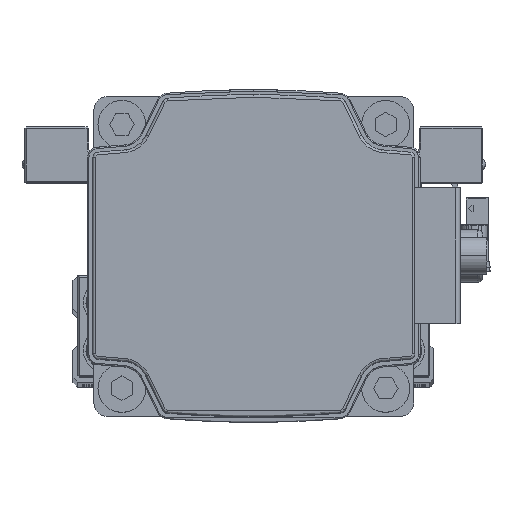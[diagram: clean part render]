
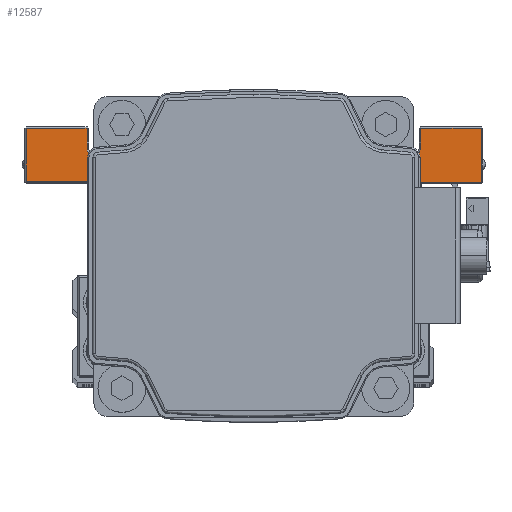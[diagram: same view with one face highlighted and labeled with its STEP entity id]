
A CAD part, top view. The second image highlights one B-rep face of the part: STEP entity #12587.
In plain terms, the highlighted planar face has unit normal (0, 0, 1) as drawn and (1, 0, 0) by its records, which use the part's own axes.
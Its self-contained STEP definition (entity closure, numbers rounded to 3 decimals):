
#397 = DIRECTION ( 'NONE',  ( 0., -1., 0. ) ) ;
#512 = CARTESIAN_POINT ( 'NONE',  ( 45., 7.5, 31.3 ) ) ;
#765 = CARTESIAN_POINT ( 'NONE',  ( 45., 7.5, 42.7 ) ) ;
#842 = EDGE_CURVE ( 'NONE', #40557, #41171, #16309, .T. ) ;
#1237 = ORIENTED_EDGE ( 'NONE', *, *, #10151, .T. ) ;
#1590 = CARTESIAN_POINT ( 'NONE',  ( 45., 12.7, -30. ) ) ;
#1626 = CARTESIAN_POINT ( 'NONE',  ( 45., 14., -30. ) ) ;
#1778 = AXIS2_PLACEMENT_3D ( 'NONE', #1626, #14402, #27135 ) ;
#1804 = LINE ( 'NONE', #14599, #9220 ) ;
#2084 = DIRECTION ( 'NONE',  ( -1., 0., 0. ) ) ;
#2250 = ORIENTED_EDGE ( 'NONE', *, *, #29465, .T. ) ;
#2454 = EDGE_CURVE ( 'NONE', #15467, #35933, #19792, .T. ) ;
#2569 = VECTOR ( 'NONE', #30602, 1000. ) ;
#3351 = VECTOR ( 'NONE', #13535, 1000. ) ;
#3794 = VERTEX_POINT ( 'NONE', #37383 ) ;
#4697 = CARTESIAN_POINT ( 'NONE',  ( 45., -8.2, 19.7 ) ) ;
#4905 = CARTESIAN_POINT ( 'NONE',  ( 45., 17.7, 31.3 ) ) ;
#5095 = LINE ( 'NONE', #17846, #2569 ) ;
#5220 = FACE_OUTER_BOUND ( 'NONE', #22428, .T. ) ;
#5696 = VERTEX_POINT ( 'NONE', #15665 ) ;
#6164 = LINE ( 'NONE', #18903, #13261 ) ;
#6236 = DIRECTION ( 'NONE',  ( 0., 1., 0. ) ) ;
#6340 = DIRECTION ( 'NONE',  ( 0., 0., -1. ) ) ;
#8253 = CARTESIAN_POINT ( 'NONE',  ( 45., 14., 30. ) ) ;
#8393 = VECTOR ( 'NONE', #6236, 1000. ) ;
#8424 = EDGE_CURVE ( 'NONE', #10308, #16803, #15781, .T. ) ;
#9220 = VECTOR ( 'NONE', #27339, 1000. ) ;
#9478 = LINE ( 'NONE', #22213, #25627 ) ;
#9861 = LINE ( 'NONE', #22603, #20858 ) ;
#10151 = EDGE_CURVE ( 'NONE', #5696, #15467, #9478, .T. ) ;
#10308 = VERTEX_POINT ( 'NONE', #16953 ) ;
#10400 = ORIENTED_EDGE ( 'NONE', *, *, #14552, .T. ) ;
#10571 = AXIS2_PLACEMENT_3D ( 'NONE', #30722, #2084, #14857 ) ;
#11680 = VERTEX_POINT ( 'NONE', #4905 ) ;
#12488 = LINE ( 'NONE', #25240, #25377 ) ;
#12587 = ADVANCED_FACE ( 'NONE', ( #5220 ), #17968, .F. ) ;
#13022 = EDGE_CURVE ( 'NONE', #18939, #5696, #1804, .T. ) ;
#13261 = VECTOR ( 'NONE', #31649, 1000. ) ;
#13295 = DIRECTION ( 'NONE',  ( 0., 1., 0. ) ) ;
#13535 = DIRECTION ( 'NONE',  ( 0., -1., 0. ) ) ;
#14402 = DIRECTION ( 'NONE',  ( -1., 0., 0. ) ) ;
#14552 = EDGE_CURVE ( 'NONE', #41171, #16241, #12488, .T. ) ;
#14599 = CARTESIAN_POINT ( 'NONE',  ( 45., 17.7, -20. ) ) ;
#14857 = DIRECTION ( 'NONE',  ( 0., 0., 1. ) ) ;
#15467 = VERTEX_POINT ( 'NONE', #34489 ) ;
#15665 = CARTESIAN_POINT ( 'NONE',  ( 45., 17.7, -31.3 ) ) ;
#15781 = LINE ( 'NONE', #28529, #36044 ) ;
#16241 = VERTEX_POINT ( 'NONE', #35145 ) ;
#16309 = LINE ( 'NONE', #29058, #38209 ) ;
#16482 = CARTESIAN_POINT ( 'NONE',  ( 45., 14., 31.3 ) ) ;
#16695 = CARTESIAN_POINT ( 'NONE',  ( 45., 7.5, -42.7 ) ) ;
#16711 = ORIENTED_EDGE ( 'NONE', *, *, #13022, .T. ) ;
#16759 = VERTEX_POINT ( 'NONE', #16482 ) ;
#16803 = VERTEX_POINT ( 'NONE', #16695 ) ;
#16953 = CARTESIAN_POINT ( 'NONE',  ( 45., 7.5, -19.7 ) ) ;
#17846 = CARTESIAN_POINT ( 'NONE',  ( 45., 17.7, -20. ) ) ;
#17968 = PLANE ( 'NONE',  #10571 ) ;
#18577 = VERTEX_POINT ( 'NONE', #27073 ) ;
#18903 = CARTESIAN_POINT ( 'NONE',  ( 45., 7.5, -19.7 ) ) ;
#18939 = VERTEX_POINT ( 'NONE', #27023 ) ;
#19792 = CIRCLE ( 'NONE', #1778, 1.3 ) ;
#19968 = EDGE_CURVE ( 'NONE', #16241, #10308, #6164, .T. ) ;
#20536 = EDGE_CURVE ( 'NONE', #35933, #3794, #9861, .T. ) ;
#20858 = VECTOR ( 'NONE', #35358, 1000. ) ;
#20931 = ORIENTED_EDGE ( 'NONE', *, *, #28167, .T. ) ;
#20981 = DIRECTION ( 'NONE',  ( -1., 0., 0. ) ) ;
#21459 = ORIENTED_EDGE ( 'NONE', *, *, #2454, .T. ) ;
#22116 = VECTOR ( 'NONE', #6340, 1000. ) ;
#22133 = LINE ( 'NONE', #34886, #8393 ) ;
#22213 = CARTESIAN_POINT ( 'NONE',  ( 45., 7.5, -31.3 ) ) ;
#22234 = LINE ( 'NONE', #34982, #22116 ) ;
#22428 = EDGE_LOOP ( 'NONE', ( #25673, #26447, #40159, #16711, #1237, #21459, #33153, #20931, #41102, #2250, #38370, #23111, #40310, #10400 ) ) ;
#22603 = CARTESIAN_POINT ( 'NONE',  ( 45., 12.7, 30. ) ) ;
#22605 = CIRCLE ( 'NONE', #27966, 1.3 ) ;
#23111 = ORIENTED_EDGE ( 'NONE', *, *, #36557, .T. ) ;
#24178 = CARTESIAN_POINT ( 'NONE',  ( 45., 7.8, 42.7 ) ) ;
#25240 = CARTESIAN_POINT ( 'NONE',  ( 45., -8.2, -20. ) ) ;
#25377 = VECTOR ( 'NONE', #37988, 1000. ) ;
#25627 = VECTOR ( 'NONE', #34961, 1000. ) ;
#25673 = ORIENTED_EDGE ( 'NONE', *, *, #19968, .T. ) ;
#26447 = ORIENTED_EDGE ( 'NONE', *, *, #8424, .T. ) ;
#27023 = CARTESIAN_POINT ( 'NONE',  ( 45., 17.7, -42.7 ) ) ;
#27073 = CARTESIAN_POINT ( 'NONE',  ( 45., 17.7, 42.7 ) ) ;
#27135 = DIRECTION ( 'NONE',  ( 0., 0., 1. ) ) ;
#27339 = DIRECTION ( 'NONE',  ( 0., 0., 1. ) ) ;
#27660 = VERTEX_POINT ( 'NONE', #24178 ) ;
#27966 = AXIS2_PLACEMENT_3D ( 'NONE', #8253, #20981, #33736 ) ;
#28167 = EDGE_CURVE ( 'NONE', #3794, #16759, #22605, .T. ) ;
#28529 = CARTESIAN_POINT ( 'NONE',  ( 45., 7.5, 43. ) ) ;
#29058 = CARTESIAN_POINT ( 'NONE',  ( 45., 7.5, 19.7 ) ) ;
#29163 = LINE ( 'NONE', #512, #36853 ) ;
#29420 = LINE ( 'NONE', #765, #3351 ) ;
#29465 = EDGE_CURVE ( 'NONE', #11680, #18577, #5095, .T. ) ;
#30602 = DIRECTION ( 'NONE',  ( 0., 0., 1. ) ) ;
#30722 = CARTESIAN_POINT ( 'NONE',  ( 45., 7.5, -20. ) ) ;
#31649 = DIRECTION ( 'NONE',  ( 0., 1., 0. ) ) ;
#33153 = ORIENTED_EDGE ( 'NONE', *, *, #20536, .T. ) ;
#33736 = DIRECTION ( 'NONE',  ( 0., 0., 1. ) ) ;
#34125 = CARTESIAN_POINT ( 'NONE',  ( 45., 7.8, 19.7 ) ) ;
#34489 = CARTESIAN_POINT ( 'NONE',  ( 45., 14., -31.3 ) ) ;
#34886 = CARTESIAN_POINT ( 'NONE',  ( 45., 7.5, -42.7 ) ) ;
#34961 = DIRECTION ( 'NONE',  ( 0., -1., 0. ) ) ;
#34982 = CARTESIAN_POINT ( 'NONE',  ( 45., 7.8, 20. ) ) ;
#35145 = CARTESIAN_POINT ( 'NONE',  ( 45., -8.2, -19.7 ) ) ;
#35358 = DIRECTION ( 'NONE',  ( 0., 0., 1. ) ) ;
#35802 = EDGE_CURVE ( 'NONE', #18577, #27660, #29420, .T. ) ;
#35933 = VERTEX_POINT ( 'NONE', #1590 ) ;
#36044 = VECTOR ( 'NONE', #41255, 1000. ) ;
#36557 = EDGE_CURVE ( 'NONE', #27660, #40557, #22234, .T. ) ;
#36853 = VECTOR ( 'NONE', #13295, 1000. ) ;
#37383 = CARTESIAN_POINT ( 'NONE',  ( 45., 12.7, 30. ) ) ;
#37409 = EDGE_CURVE ( 'NONE', #16759, #11680, #29163, .T. ) ;
#37988 = DIRECTION ( 'NONE',  ( 0., 0., -1. ) ) ;
#38209 = VECTOR ( 'NONE', #397, 1000. ) ;
#38370 = ORIENTED_EDGE ( 'NONE', *, *, #35802, .T. ) ;
#39391 = EDGE_CURVE ( 'NONE', #16803, #18939, #22133, .T. ) ;
#40159 = ORIENTED_EDGE ( 'NONE', *, *, #39391, .T. ) ;
#40310 = ORIENTED_EDGE ( 'NONE', *, *, #842, .T. ) ;
#40557 = VERTEX_POINT ( 'NONE', #34125 ) ;
#41102 = ORIENTED_EDGE ( 'NONE', *, *, #37409, .T. ) ;
#41171 = VERTEX_POINT ( 'NONE', #4697 ) ;
#41255 = DIRECTION ( 'NONE',  ( 0., 0., -1. ) ) ;
